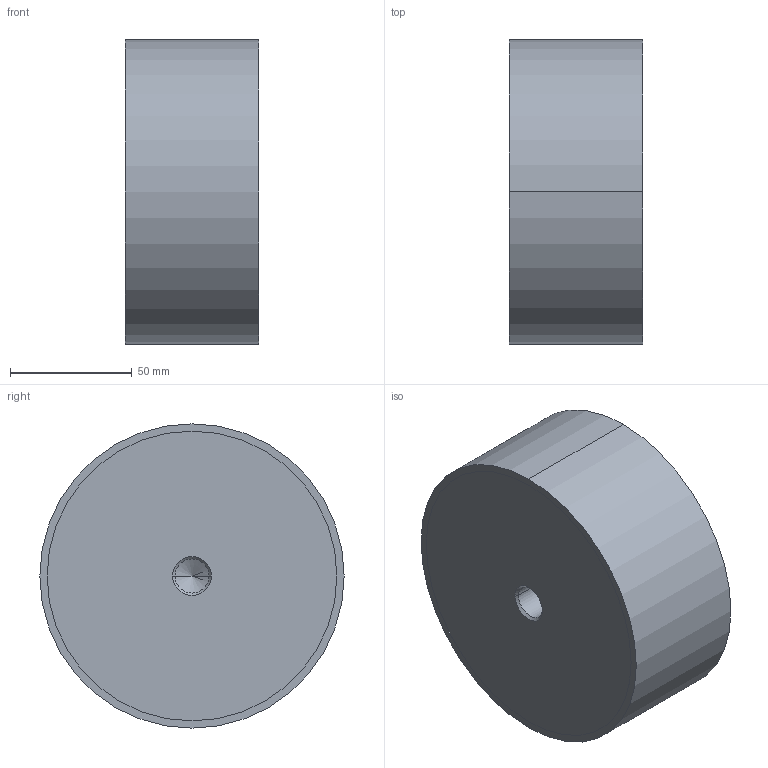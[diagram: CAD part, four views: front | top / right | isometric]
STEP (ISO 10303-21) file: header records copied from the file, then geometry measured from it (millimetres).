
FILE_DESCRIPTION (( 'STEP AP214' ), '1' );
FILE_NAME ('351-125-55-M16-EE-40.step', '2025-07-23T09:57:09', ( '' ), ( '' ), 'SwSTEP 2.0', 'SolidWorks 2022', '' );
FILE_SCHEMA (( 'AUTOMOTIVE_DESIGN' ));
Length unit declared in the file: millimetre
Products named in the file (1): 351-125-55-M16-EE-40
Bounding box: 55 x 125 x 125 mm (x, y, z)
Volume: 668901.3 mm3; surface area: 47683.8 mm2
Topology: 1 solids, 1 shells, 28 faces, 58 edges, 34 vertices
Faces by surface type: cylinder 14, cone 8, plane 6
Entity records: 844 total; most frequent: DIRECTION 144, CARTESIAN_POINT 117, ORIENTED_EDGE 108, AXIS2_PLACEMENT_3D 61, EDGE_CURVE 54, VERTEX_POINT 34, EDGE_LOOP 34, CIRCLE 32
